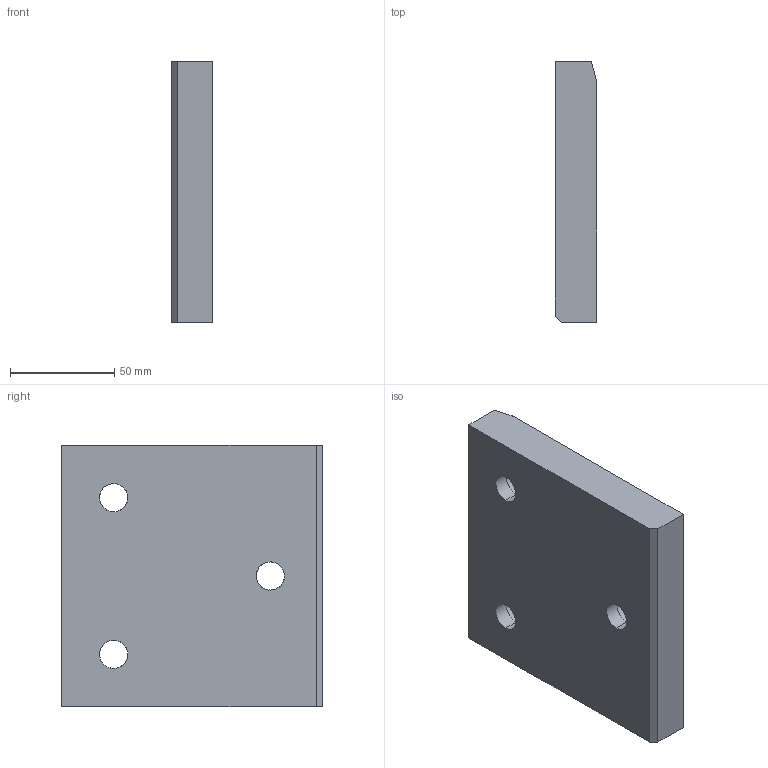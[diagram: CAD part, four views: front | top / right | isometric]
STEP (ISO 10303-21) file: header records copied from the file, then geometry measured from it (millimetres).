
FILE_DESCRIPTION(('CATIA V5 STEP Exchange'),'2;1');
FILE_NAME('C:\Users\borellobunino\Desktop\3D X SITO CF\A915\GSB_OILLESS_G22501125125\STEP-2.03\A915-125X125.stp','2019-07-14T13:50:56+00:00',('none'),('none'),'CATIA Version 5 Release 20 GA (IN-10)','CATIA V5 STEP AP203','none');
FILE_SCHEMA(('CONFIG_CONTROL_DESIGN'));
Length unit declared in the file: millimetre
Products named in the file (1): A915-125X125
Bounding box: 20 x 125 x 125 mm (x, y, z)
Volume: 294613.9 mm3; surface area: 42954.3 mm2
Topology: 1 solids, 1 shells, 30 faces, 99 edges, 74 vertices
Faces by surface type: cylinder 13, plane 11, torus 6
Entity records: 1437 total; most frequent: CARTESIAN_POINT 540, ORIENTED_EDGE 198, DIRECTION 135, EDGE_CURVE 99, AXIS2_PLACEMENT_3D 75, VERTEX_POINT 74, CIRCLE 44, EDGE_LOOP 39
